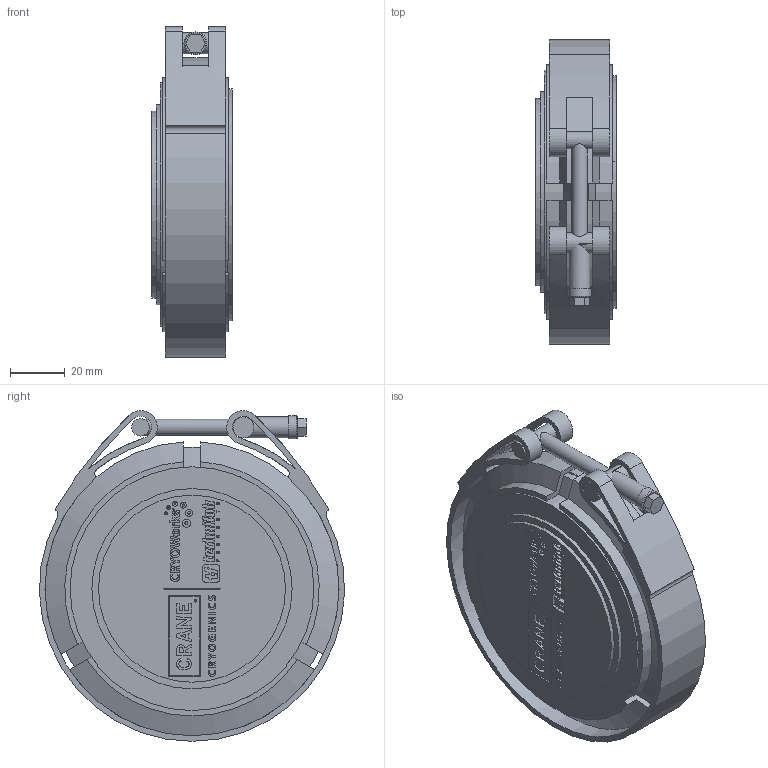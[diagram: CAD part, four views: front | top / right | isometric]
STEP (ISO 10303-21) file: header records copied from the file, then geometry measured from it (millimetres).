
FILE_DESCRIPTION (( 'STEP AP203' ), '1' );
FILE_NAME ('1.5IN T150^PucksSLDASM.STEP', '2026-02-03T18:08:20', ( '' ), ( '' ), 'SwSTEP 2.0', 'SolidWorks 2023', '' );
FILE_SCHEMA (( 'CONFIG_CONTROL_DESIGN' ));
Length unit declared in the file: inch
Products named in the file (4): Copy of F 2.5 NPS STD^1.5IN T150_PucksSLDASM; 1.5IN T150^PucksSLDASM; Copy of M 3in NPS^1.5IN T150_PucksSLDASM; T150 CLAMP
Assembly tree (3 placements, depth 2):
  1.5IN T150^PucksSLDASM
    Copy of F 2.5 NPS STD^1.5IN T150_PucksSLDASM
    Copy of M 3in NPS^1.5IN T150_PucksSLDASM
    T150 CLAMP
Bounding box: 29.21 x 111.26 x 120.55 mm (x, y, z)
Volume: 232144.6 mm3; surface area: 82084.5 mm2
Topology: 4 solids, 4 shells, 1251 faces, 3214 edges, 2139 vertices
Faces by surface type: plane 944, cylinder 185, bspline 106, cone 14, torus 2
Full cylindrical faces by diameter (mm): 0.418 x1, 0.458 x1, 0.498 x1, 0.526 x1, 0.571 x1, 0.576 x1, 0.626 x1, 0.645 x1, 0.718 x1, 0.81 x1, 0.831 x1, 0.86 x1, 0.954 x1, 1.017 x1, 1.044 x1, 1.066 x1, 1.081 x1, 1.123 x1, 1.2 x1, 1.279 x1, 1.28 x1, 1.34 x1, 1.411 x1, 1.61 x1, 1.729 x1, 2.137 x1, 2.174 x1, 2.585 x1, 2.686 x1, 3.01 x1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
Entity records: 43880 total; most frequent: CARTESIAN_POINT 13583, ORIENTED_EDGE 6298, DIRECTION 5602, EDGE_CURVE 3149, VECTOR 2518, LINE 2518, VERTEX_POINT 2139, AXIS2_PLACEMENT_3D 1542
